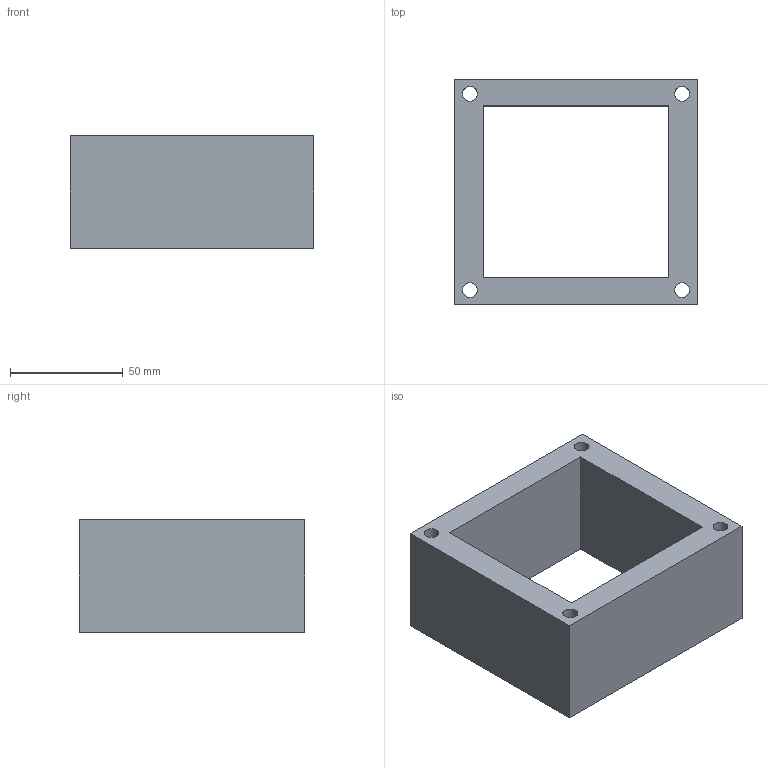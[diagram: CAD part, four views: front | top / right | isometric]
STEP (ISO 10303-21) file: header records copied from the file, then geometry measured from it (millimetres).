
FILE_DESCRIPTION (( 'STEP AP203' ), '1' );
FILE_NAME ('Spacer^Retro fit new axes.STEP', '2024-07-13T16:29:42', ( '' ), ( '' ), 'SwSTEP 2.0', 'SolidWorks 2020', '' );
FILE_SCHEMA (( 'CONFIG_CONTROL_DESIGN' ));
Length unit declared in the file: millimetre
Products named in the file (1): Spacer^Retro fit new axes
Bounding box: 108 x 100 x 50 mm (x, y, z)
Volume: 220025.9 mm3; surface area: 49587 mm2
Topology: 1 solids, 1 shells, 18 faces, 48 edges, 32 vertices
Faces by surface type: plane 10, cylinder 8
Entity records: 665 total; most frequent: DIRECTION 102, CARTESIAN_POINT 99, ORIENTED_EDGE 96, EDGE_CURVE 48, AXIS2_PLACEMENT_3D 35, VECTOR 32, LINE 32, VERTEX_POINT 32
